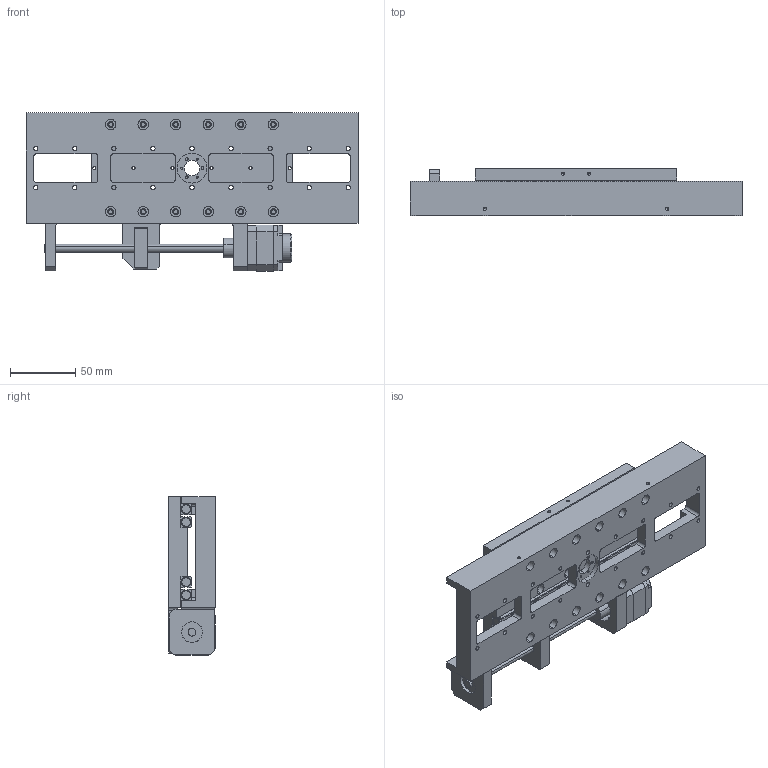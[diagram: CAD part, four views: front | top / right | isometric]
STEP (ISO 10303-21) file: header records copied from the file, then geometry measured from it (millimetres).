
FILE_DESCRIPTION (( 'STEP AP214' ), '1' );
FILE_NAME ('VSM17-X-100 STEP.STEP', '2022-12-15T13:44:28', ( '' ), ( '' ), 'SwSTEP 2.0', 'SolidWorks 2022', '' );
FILE_SCHEMA (( 'AUTOMOTIVE_DESIGN' ));
Length unit declared in the file: millimetre
Products named in the file (8): Simplified Roller Bearing 100; Cap Head M4x12.VentSLDPRT; Simplified Drivetrain; Simplified Leadscrew Nut; Simplified Motor; Simplified VSM17-X-100 Base V2; Simplified VSM17-X-100 Carriage; VSM17-X-100 STEP
Assembly tree (21 placements, depth 2):
  VSM17-X-100 STEP
    Simplified VSM17-X-100 Base V2
    Simplified Motor
    Simplified Drivetrain
    Simplified Roller Bearing 100  x4
    Simplified VSM17-X-100 Carriage
    Simplified Leadscrew Nut
    Cap Head M4x12.VentSLDPRT  x12
Bounding box: 255 x 36 x 121.7 mm (x, y, z)
Volume: 473613 mm3; surface area: 161552.8 mm2
Topology: 21 solids, 21 shells, 1177 faces, 2870 edges, 1806 vertices
Faces by surface type: cylinder 504, plane 479, cone 130, torus 64
Entity records: 21571 total; most frequent: DIRECTION 3644, CARTESIAN_POINT 3369, ORIENTED_EDGE 3192, EDGE_CURVE 1596, AXIS2_PLACEMENT_3D 1405, VERTEX_POINT 1044, EDGE_LOOP 880, LINE 834
